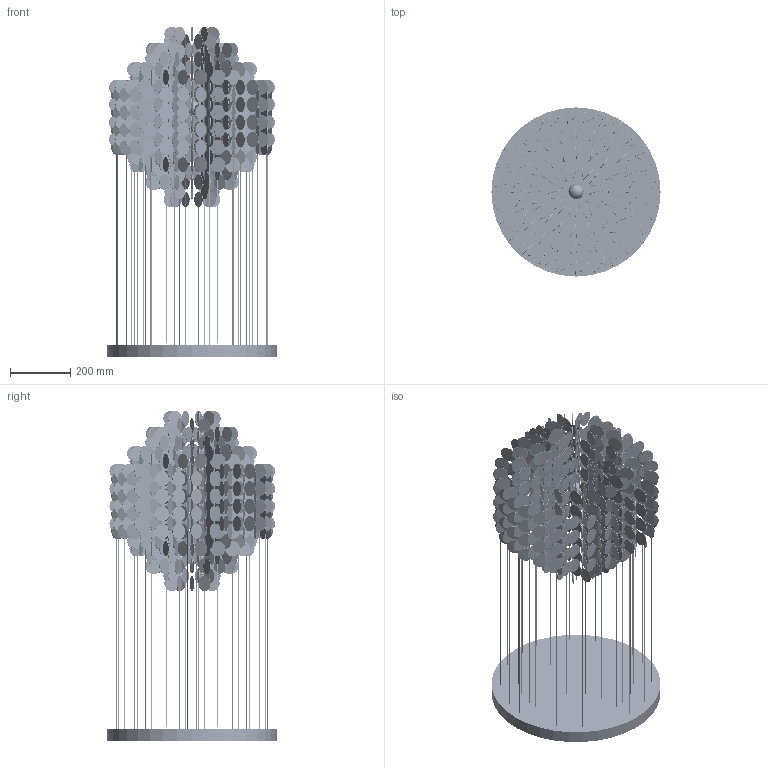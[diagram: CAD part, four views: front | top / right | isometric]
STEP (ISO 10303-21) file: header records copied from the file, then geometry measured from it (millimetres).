
FILE_DESCRIPTION (( 'STEP AP214' ), '1' );
FILE_NAME ('FUN 4DM assembly.STEP', '2013-01-07T19:41:33', ( '' ), ( '' ), 'SwSTEP 2.0', 'SolidWorks 2013', '' );
FILE_SCHEMA (( 'AUTOMOTIVE_DESIGN' ));
Length unit declared in the file: millimetre
Products named in the file (11): bulb dummy; Line 655.2; Line 630; Line 597.5; Line 572.5; Line 540.2; Line 515; Line 482.5; Line 457.5; Upper plate ø560; FUN 4DM assembly
Assembly tree (148 placements, depth 2):
  FUN 4DM assembly
    Upper plate ø560
    Line 457.5  x10
    Line 482.5  x10
    Line 515  x16
    Line 540.2  x16
    Line 572.5  x20
    Line 597.5  x20
    Line 630  x27
    Line 655.2  x27
    bulb dummy
Bounding box: 560 x 560 x 1094.5 mm (x, y, z)
Volume: 11775802.1 mm3; surface area: 4569819.1 mm2
Topology: 1061 solids, 1061 shells, 4644 faces, 7171 edges, 4781 vertices
Faces by surface type: cylinder 2388, plane 2254, sphere 2
Entity records: 18783 total; most frequent: DIRECTION 3642, CARTESIAN_POINT 2823, ORIENTED_EDGE 2404, AXIS2_PLACEMENT_3D 1621, EDGE_CURVE 1202, VERTEX_POINT 802, CIRCLE 802, EDGE_LOOP 802
